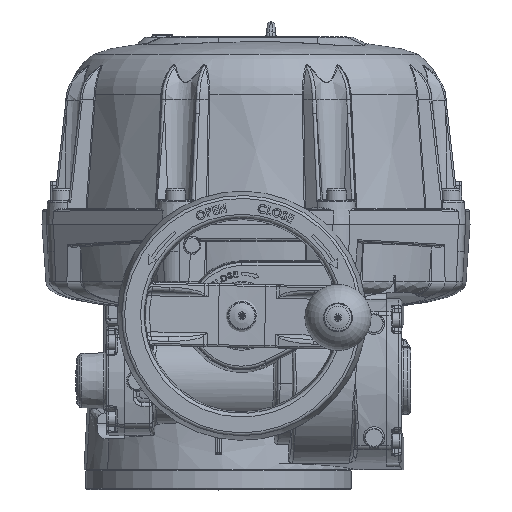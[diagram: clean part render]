
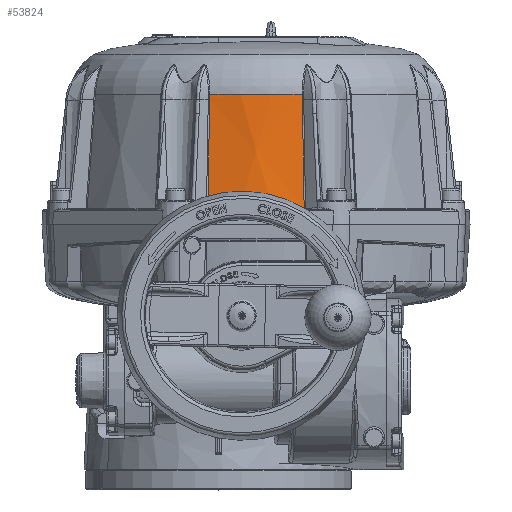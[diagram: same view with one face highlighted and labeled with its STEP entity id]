
A CAD part, top view. The second image highlights one B-rep face of the part: STEP entity #53824.
In plain terms, the highlighted conical face has half-angle 5 degrees and reference radius 131 mm.
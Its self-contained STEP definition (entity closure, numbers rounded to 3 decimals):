
#2293 = ORIENTED_EDGE ( 'NONE', *, *, #38840, .F. ) ;
#3682 = CARTESIAN_POINT ( 'NONE',  ( -134.558, 217.6, -27.663 ) ) ;
#8571 = CARTESIAN_POINT ( 'NONE',  ( -71.633, 229.252, -28.667 ) ) ;
#9807 = DIRECTION ( 'NONE',  ( -1., 0., 0. ) ) ;
#11414 = CARTESIAN_POINT ( 'NONE',  ( -133.871, 259.439, -31.266 ) ) ;
#14345 = CARTESIAN_POINT ( 'NONE',  ( -133.871, 259.439, -31.266 ) ) ;
#14492 = CARTESIAN_POINT ( 'NONE',  ( -134.889, 197.475, -25.931 ) ) ;
#15191 = EDGE_CURVE ( 'NONE', #49496, #94246, #35049, .T. ) ;
#15714 = EDGE_CURVE ( 'NONE', #34037, #50382, #20421, .T. ) ;
#17326 = ORIENTED_EDGE ( 'NONE', *, *, #37808, .T. ) ;
#18184 = CARTESIAN_POINT ( 'NONE',  ( -103., 186.5, -152. ) ) ;
#19364 = CARTESIAN_POINT ( 'NONE',  ( -71.964, 249.377, -30.399 ) ) ;
#20421 = B_SPLINE_CURVE_WITH_KNOTS ( 'NONE', 3,
 ( #35597, #24830, #116580, #111011, #46392, #121721, #57193, #132478, #68059, #3682, #78944, #14492, #89800 ),
 .UNSPECIFIED., .F., .F.,
 ( 4, 3, 3, 3, 4 ),
 ( 0., 0.002, 0.01, 0.042, 0.072 ),
 .UNSPECIFIED. ) ;
#20496 = EDGE_LOOP ( 'NONE', ( #2293, #59371, #43668, #17326, #26577, #136853 ) ) ;
#22167 = CARTESIAN_POINT ( 'NONE',  ( -103., 263.365, -152. ) ) ;
#24728 = AXIS2_PLACEMENT_3D ( 'NONE', #18184, #50538, #40209 ) ;
#24830 = CARTESIAN_POINT ( 'NONE',  ( -133.882, 258.775, -31.208 ) ) ;
#26577 = ORIENTED_EDGE ( 'NONE', *, *, #15191, .T. ) ;
#32849 = EDGE_CURVE ( 'NONE', #67949, #34037, #89657, .T. ) ;
#32916 = DIRECTION ( 'NONE',  ( -1., 0., 0. ) ) ;
#34037 = VERTEX_POINT ( 'NONE', #14345 ) ;
#35049 = B_SPLINE_CURVE_WITH_KNOTS ( 'NONE', 3,
 ( #105111, #94268, #40471, #115851, #51289, #126567, #62118, #137426, #72986, #8571, #83860, #19364, #94721 ),
 .UNSPECIFIED., .F., .F.,
 ( 4, 3, 3, 3, 4 ),
 ( 0., 0.002, 0.01, 0.042, 0.072 ),
 .UNSPECIFIED. ) ;
#35597 = CARTESIAN_POINT ( 'NONE',  ( -133.871, 259.439, -31.266 ) ) ;
#37808 = EDGE_CURVE ( 'NONE', #50382, #49496, #69997, .T. ) ;
#38840 = EDGE_CURVE ( 'NONE', #67949, #85487, #125775, .T. ) ;
#40209 = DIRECTION ( 'NONE',  ( 1., 0., 0. ) ) ;
#40471 = CARTESIAN_POINT ( 'NONE',  ( -70.967, 188.741, -25.179 ) ) ;
#43668 = ORIENTED_EDGE ( 'NONE', *, *, #15714, .T. ) ;
#46392 = CARTESIAN_POINT ( 'NONE',  ( -133.947, 254.79, -30.865 ) ) ;
#47510 = CARTESIAN_POINT ( 'NONE',  ( -72.129, 259.439, -31.266 ) ) ;
#49121 = AXIS2_PLACEMENT_3D ( 'NONE', #22167, #97533, #32916 ) ;
#49496 = VERTEX_POINT ( 'NONE', #59174 ) ;
#50382 = VERTEX_POINT ( 'NONE', #64330 ) ;
#50538 = DIRECTION ( 'NONE',  ( 0., -1., 0. ) ) ;
#51289 = CARTESIAN_POINT ( 'NONE',  ( -71.022, 192.062, -25.465 ) ) ;
#53824 = ADVANCED_FACE ( 'NONE', ( #118226 ), #120269, .T. ) ;
#57193 = CARTESIAN_POINT ( 'NONE',  ( -134.035, 249.477, -30.408 ) ) ;
#59174 = CARTESIAN_POINT ( 'NONE',  ( -70.946, 187.413, -25.065 ) ) ;
#59371 = ORIENTED_EDGE ( 'NONE', *, *, #32849, .T. ) ;
#62118 = CARTESIAN_POINT ( 'NONE',  ( -71.109, 197.375, -25.922 ) ) ;
#62150 = CARTESIAN_POINT ( 'NONE',  ( -72.129, 259.439, -31.266 ) ) ;
#64330 = CARTESIAN_POINT ( 'NONE',  ( -135.054, 187.413, -25.065 ) ) ;
#65388 = CARTESIAN_POINT ( 'NONE',  ( -72.235, 263.365, -31.593 ) ) ;
#67949 = VERTEX_POINT ( 'NONE', #134079 ) ;
#68059 = CARTESIAN_POINT ( 'NONE',  ( -134.384, 228.226, -28.578 ) ) ;
#69997 = CIRCLE ( 'NONE', #121081, 130.92 ) ;
#72986 = CARTESIAN_POINT ( 'NONE',  ( -71.458, 218.627, -27.752 ) ) ;
#74249 = DIRECTION ( 'NONE',  ( 0., 1., 0. ) ) ;
#74903 = CARTESIAN_POINT ( 'NONE',  ( -133.733, 262.056, -31.467 ) ) ;
#75848 = CARTESIAN_POINT ( 'NONE',  ( -133.771, 260.748, -31.358 ) ) ;
#78944 = CARTESIAN_POINT ( 'NONE',  ( -134.724, 207.537, -26.797 ) ) ;
#83860 = CARTESIAN_POINT ( 'NONE',  ( -71.798, 239.315, -29.533 ) ) ;
#85487 = VERTEX_POINT ( 'NONE', #136446 ) ;
#89657 = B_SPLINE_CURVE_WITH_KNOTS ( 'NONE', 3,
 ( #129411, #74903, #75848, #11414 ),
 .UNSPECIFIED., .F., .F.,
 ( 4, 4 ),
 ( 0., 0.004 ),
 .UNSPECIFIED. ) ;
#89800 = CARTESIAN_POINT ( 'NONE',  ( -135.054, 187.413, -25.065 ) ) ;
#94246 = VERTEX_POINT ( 'NONE', #47510 ) ;
#94268 = CARTESIAN_POINT ( 'NONE',  ( -70.957, 188.077, -25.122 ) ) ;
#94721 = CARTESIAN_POINT ( 'NONE',  ( -72.129, 259.439, -31.266 ) ) ;
#97531 = CARTESIAN_POINT ( 'NONE',  ( -72.229, 260.748, -31.358 ) ) ;
#97533 = DIRECTION ( 'NONE',  ( 0., 1., 0. ) ) ;
#105111 = CARTESIAN_POINT ( 'NONE',  ( -70.946, 187.413, -25.065 ) ) ;
#109236 = EDGE_CURVE ( 'NONE', #94246, #85487, #132666, .T. ) ;
#111011 = CARTESIAN_POINT ( 'NONE',  ( -133.904, 257.447, -31.094 ) ) ;
#115851 = CARTESIAN_POINT ( 'NONE',  ( -70.978, 189.405, -25.236 ) ) ;
#116580 = CARTESIAN_POINT ( 'NONE',  ( -133.893, 258.111, -31.151 ) ) ;
#118226 = FACE_OUTER_BOUND ( 'NONE', #20496, .T. ) ;
#120269 = CONICAL_SURFACE ( 'NONE', #24728, 131., 0.087 ) ;
#121081 = AXIS2_PLACEMENT_3D ( 'NONE', #138663, #74249, #9807 ) ;
#121721 = CARTESIAN_POINT ( 'NONE',  ( -133.991, 252.134, -30.637 ) ) ;
#125775 = CIRCLE ( 'NONE', #49121, 124.275 ) ;
#126567 = CARTESIAN_POINT ( 'NONE',  ( -71.066, 194.718, -25.693 ) ) ;
#129411 = CARTESIAN_POINT ( 'NONE',  ( -133.765, 263.365, -31.593 ) ) ;
#129831 = CARTESIAN_POINT ( 'NONE',  ( -72.267, 262.056, -31.467 ) ) ;
#132478 = CARTESIAN_POINT ( 'NONE',  ( -134.209, 238.851, -29.493 ) ) ;
#132666 = B_SPLINE_CURVE_WITH_KNOTS ( 'NONE', 3,
 ( #62150, #97531, #129831, #65388 ),
 .UNSPECIFIED., .F., .F.,
 ( 4, 4 ),
 ( 0., 0.004 ),
 .UNSPECIFIED. ) ;
#134079 = CARTESIAN_POINT ( 'NONE',  ( -133.765, 263.365, -31.593 ) ) ;
#136446 = CARTESIAN_POINT ( 'NONE',  ( -72.235, 263.365, -31.593 ) ) ;
#136853 = ORIENTED_EDGE ( 'NONE', *, *, #109236, .T. ) ;
#137426 = CARTESIAN_POINT ( 'NONE',  ( -71.284, 208.001, -26.837 ) ) ;
#138663 = CARTESIAN_POINT ( 'NONE',  ( -103., 187.413, -152. ) ) ;
